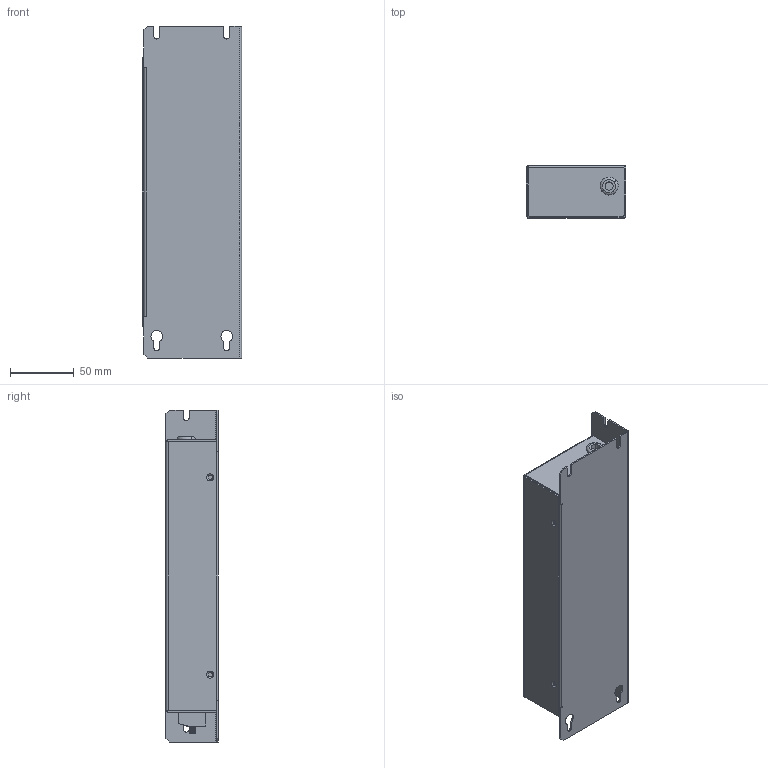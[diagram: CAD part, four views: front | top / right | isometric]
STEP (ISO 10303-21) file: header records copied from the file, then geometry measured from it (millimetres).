
FILE_DESCRIPTION (( 'STEP AP203' ), '1' );
FILE_NAME ('M400-2-1 assembly.STEP', '2016-09-07T08:25:57', ( '' ), ( '' ), 'SwSTEP 2.0', 'SolidWorks 2016', '' );
FILE_SCHEMA (( 'CONFIG_CONTROL_DESIGN' ));
Length unit declared in the file: millimetre
Products named in the file (10): M4 Hank 0.6mm; M5x20 Earth post; hex screw_am_B18.6.7M - M5 x 0.8 x 13 Indented HHMS --13S; M400-2-1-box; VDFK-4; flat washer narrow_am_B18.22M - Plain washer, 5 mm, narrow; M400-2-1-back; hex nut style 1_am_B18.2.4.1M - Hex nut, Style 1,  M5 x 0.8 --D-N; Grommet 15069; M400-2-1 assembly
Assembly tree (16 placements, depth 3):
  M400-2-1 assembly
    M400-2-1-back
    M400-2-1-box
    M4 Hank 0.6mm  x6
    Grommet 15069
    M5x20 Earth post
      flat washer narrow_am_B18.22M - Plain washer, 5 mm, narrow  x2
      hex nut style 1_am_B18.2.4.1M - Hex nut, Style 1,  M5 x 0.8 --D-N
      hex screw_am_B18.6.7M - M5 x 0.8 x 13 Indented HHMS --13S
    VDFK-4  x2
Bounding box: 78 x 41 x 261 mm (x, y, z)
Volume: 83492.1 mm3; surface area: 135807.2 mm2
Topology: 15 solids, 15 shells, 480 faces, 1142 edges, 710 vertices
Faces by surface type: plane 183, cylinder 157, cone 132, bspline 4, torus 4
Entity records: 12349 total; most frequent: CARTESIAN_POINT 2195, DIRECTION 1993, ORIENTED_EDGE 1782, EDGE_CURVE 891, AXIS2_PLACEMENT_3D 768, VERTEX_POINT 554, VECTOR 457, LINE 457
